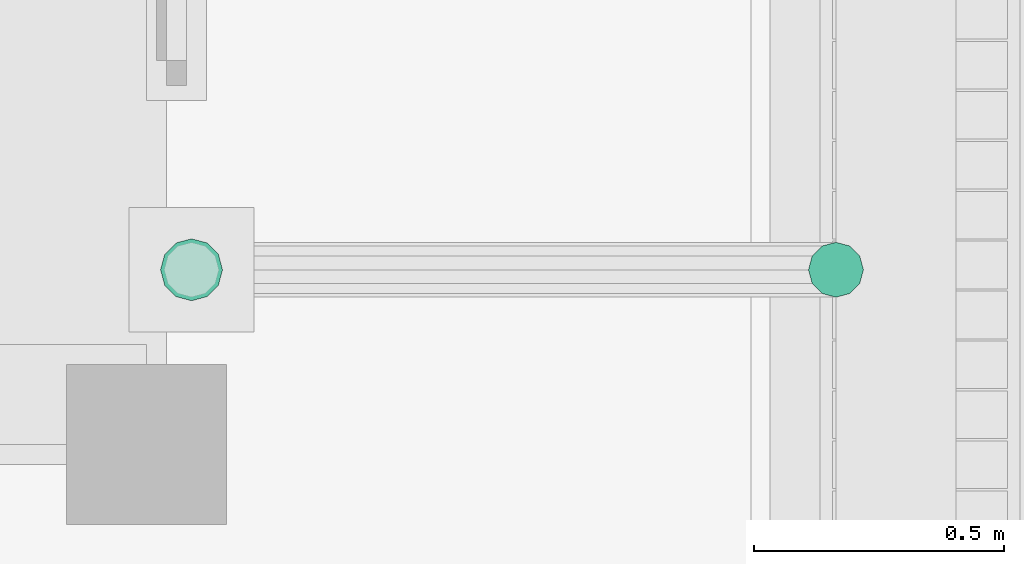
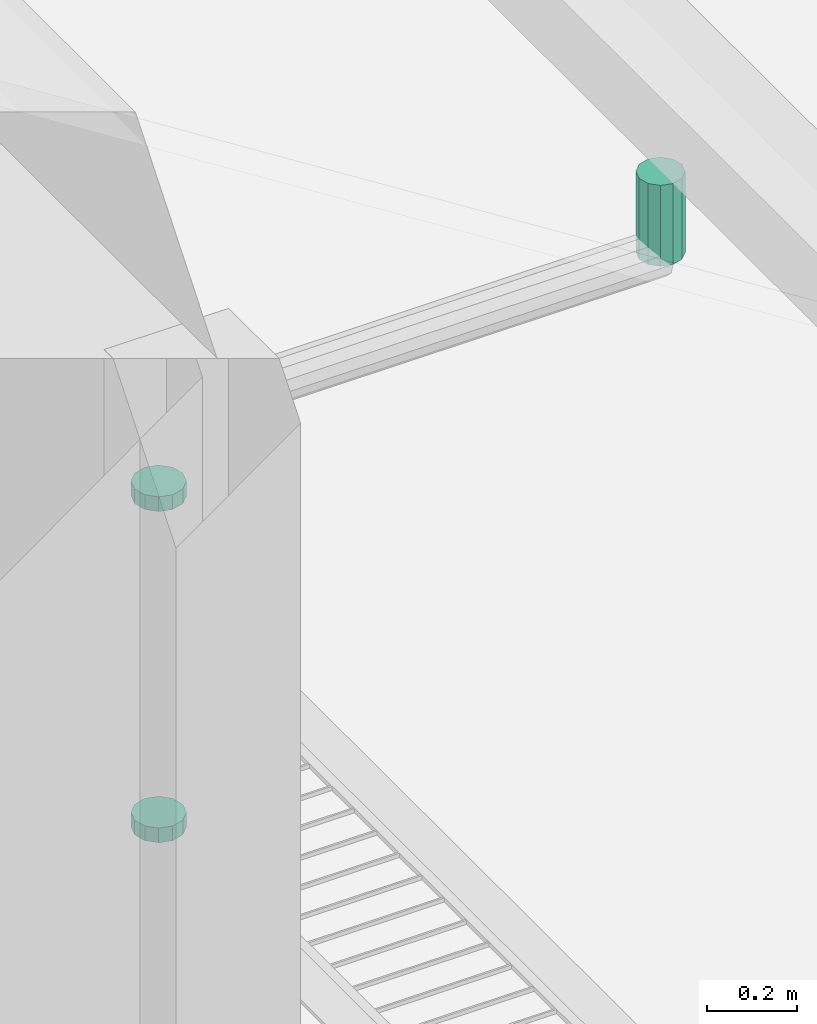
# One storey, part 115 of 151: 3 flow segments.
"""IFC2X3 building model written with IfcOpenShell, lengths in metres."""

from ifc_helpers import new_model, si_unit, origin, origin_with_axes, place, context, subcontext, project, spatial, faceted_brep, element, save


model = new_model("IFC2X3")

# Units and contexts
model_context = context("Model", 3, precision=1e-05, world=origin_with_axes())
body_context = subcontext(model_context, "Body", "Model", "MODEL_VIEW")
ifc_project = project(units=[si_unit("LENGTHUNIT", "METRE"), si_unit("AREAUNIT", "SQUARE_METRE"), si_unit("VOLUMEUNIT", "CUBIC_METRE"), si_unit("PLANEANGLEUNIT", "RADIAN")], contexts=[model_context])

# Site, building, storey
site_placement = place(None, origin_with_axes())
site = spatial("IfcSite", under=ifc_project, at=site_placement, Name="Predio Los Mangos - Morales, San Martín", CompositionType="ELEMENT")
building_placement = place(site_placement, origin())
building = spatial("IfcBuilding", under=site, at=building_placement, Name="Hogar de Refugio Temporal", CompositionType="ELEMENT")
storey_placement = place(building_placement, origin())
storey = spatial("IfcBuildingStorey", under=building, at=storey_placement, Name="NIVEL 1 (NPT +0.00)", CompositionType="ELEMENT", Elevation=0.0)

# Flow segments
flow_segment_1_placement = place(storey_placement, origin())
element("IfcFlowSegment", 1, at=flow_segment_1_placement, inside=storey, Name="montante_boquilla", ObjectType="Montante PVC 4\"", context=body_context, shape_type="Brep", body=[
    faceted_brep([(60.98, 58.305, 3.13), (60.98, 58.305, 2.91), (60.9525, 58.2976, 2.91), (60.9525, 58.2976, 3.13), (60.9324, 58.2775, 2.91), (60.9324, 58.2775, 3.13), (60.925, 58.25, 2.91), (60.925, 58.25, 3.13), (60.9324, 58.2225, 2.91), (60.9324, 58.2225, 3.13), (60.9525, 58.2024, 2.91), (60.9525, 58.2024, 3.13), (60.98, 58.195, 2.91), (60.98, 58.195, 3.13), (61.0075, 58.2024, 2.91), (61.0075, 58.2024, 3.13), (61.0276, 58.2225, 2.91), (61.0276, 58.2225, 3.13), (61.035, 58.25, 2.91), (61.035, 58.25, 3.13), (61.0276, 58.2775, 2.91), (61.0276, 58.2775, 3.13), (61.0075, 58.2976, 2.91), (61.0075, 58.2976, 3.13)], [[[0, 1, 2, 3]], [[3, 2, 4, 5]], [[5, 4, 6, 7]], [[7, 6, 8, 9]], [[9, 8, 10, 11]], [[11, 10, 12, 13]], [[13, 12, 14, 15]], [[15, 14, 16, 17]], [[17, 16, 18, 19]], [[19, 18, 20, 21]], [[2, 1, 22, 20, 18, 16, 14, 12, 10, 8, 6, 4]], [[21, 20, 22, 23]], [[23, 22, 1, 0]], [[0, 3, 5, 7, 9, 11, 13, 15, 17, 19, 21, 23]]]),
])
flow_segment_2_placement = place(storey_placement, origin())
element("IfcFlowSegment", 2, at=flow_segment_2_placement, inside=storey, Name="montante_abrazadera", ObjectType="Montante PVC 4\"", context=body_context, shape_type="Brep", body=[
    faceted_brep([(59.69, 58.188, 1.8), (59.69, 58.188, 1.84), (59.659, 58.1963, 1.84), (59.659, 58.1963, 1.8), (59.6363, 58.219, 1.84), (59.6363, 58.219, 1.8), (59.628, 58.25, 1.84), (59.628, 58.25, 1.8), (59.6363, 58.281, 1.84), (59.6363, 58.281, 1.8), (59.659, 58.3037, 1.84), (59.659, 58.3037, 1.8), (59.69, 58.312, 1.84), (59.69, 58.312, 1.8), (59.721, 58.3037, 1.84), (59.721, 58.3037, 1.8), (59.7437, 58.281, 1.84), (59.7437, 58.281, 1.8), (59.752, 58.25, 1.84), (59.752, 58.25, 1.8), (59.7437, 58.219, 1.84), (59.7437, 58.219, 1.8), (59.721, 58.1963, 1.84), (59.721, 58.1963, 1.8)], [[[0, 1, 2, 3]], [[3, 2, 4, 5]], [[5, 4, 6, 7]], [[7, 6, 8, 9]], [[9, 8, 10, 11]], [[11, 10, 12, 13]], [[13, 12, 14, 15]], [[15, 14, 16, 17]], [[17, 16, 18, 19]], [[19, 18, 20, 21]], [[2, 1, 22, 20, 18, 16, 14, 12, 10, 8, 6, 4]], [[21, 20, 22, 23]], [[23, 22, 1, 0]], [[0, 3, 5, 7, 9, 11, 13, 15, 17, 19, 21, 23]]]),
])
flow_segment_3_placement = place(storey_placement, origin())
element("IfcFlowSegment", 3, at=flow_segment_3_placement, inside=storey, Name="montante_abrazadera", ObjectType="Montante PVC 4\"", context=body_context, shape_type="Brep", body=[
    faceted_brep([(59.69, 58.188, 2.7), (59.69, 58.188, 2.74), (59.659, 58.1963, 2.74), (59.659, 58.1963, 2.7), (59.6363, 58.219, 2.74), (59.6363, 58.219, 2.7), (59.628, 58.25, 2.74), (59.628, 58.25, 2.7), (59.6363, 58.281, 2.74), (59.6363, 58.281, 2.7), (59.659, 58.3037, 2.74), (59.659, 58.3037, 2.7), (59.69, 58.312, 2.74), (59.69, 58.312, 2.7), (59.721, 58.3037, 2.74), (59.721, 58.3037, 2.7), (59.7437, 58.281, 2.74), (59.7437, 58.281, 2.7), (59.752, 58.25, 2.74), (59.752, 58.25, 2.7), (59.7437, 58.219, 2.74), (59.7437, 58.219, 2.7), (59.721, 58.1963, 2.74), (59.721, 58.1963, 2.7)], [[[0, 1, 2, 3]], [[3, 2, 4, 5]], [[5, 4, 6, 7]], [[7, 6, 8, 9]], [[9, 8, 10, 11]], [[11, 10, 12, 13]], [[13, 12, 14, 15]], [[15, 14, 16, 17]], [[17, 16, 18, 19]], [[19, 18, 20, 21]], [[2, 1, 22, 20, 18, 16, 14, 12, 10, 8, 6, 4]], [[21, 20, 22, 23]], [[23, 22, 1, 0]], [[0, 3, 5, 7, 9, 11, 13, 15, 17, 19, 21, 23]]]),
])

save(model, "model.ifc")
